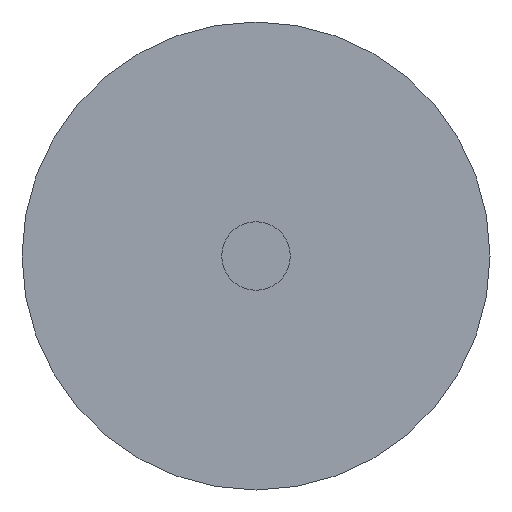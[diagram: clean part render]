
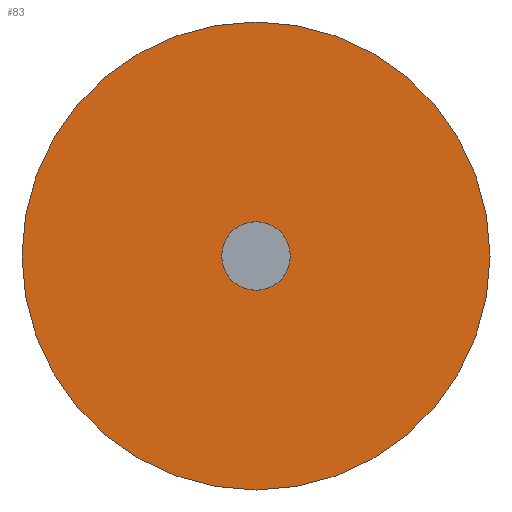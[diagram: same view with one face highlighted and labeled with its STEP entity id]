
A CAD part, front view. The second image highlights one B-rep face of the part: STEP entity #83.
In plain terms, the highlighted planar face has unit normal (0, -1, 0).
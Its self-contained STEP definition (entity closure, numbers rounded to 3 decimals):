
#83 = ADVANCED_FACE( '', ( #216, #217 ), #218, .F. );
#216 = FACE_BOUND( '', #470, .T. );
#217 = FACE_OUTER_BOUND( '', #471, .T. );
#218 = PLANE( '', #472 );
#470 = EDGE_LOOP( '', ( #862 ) );
#471 = EDGE_LOOP( '', ( #863 ) );
#472 = AXIS2_PLACEMENT_3D( '', #864, #865, #866 );
#862 = ORIENTED_EDGE( '', *, *, #1869, .F. );
#863 = ORIENTED_EDGE( '', *, *, #1870, .T. );
#864 = CARTESIAN_POINT( '', ( 20.5, 0., 0. ) );
#865 = DIRECTION( '', ( 0., 1., 0. ) );
#866 = DIRECTION( '', ( 0., 0., 1. ) );
#1869 = EDGE_CURVE( '', #2324, #2324, #2325, .T. );
#1870 = EDGE_CURVE( '', #2326, #2326, #2327, .T. );
#2324 = VERTEX_POINT( '', #3443 );
#2325 = CIRCLE( '', #3444, 3. );
#2326 = VERTEX_POINT( '', #3445 );
#2327 = CIRCLE( '', #3446, 20.5 );
#3443 = CARTESIAN_POINT( '', ( 0., 0., -3. ) );
#3444 = AXIS2_PLACEMENT_3D( '', #3993, #3994, #3995 );
#3445 = CARTESIAN_POINT( '', ( 0., 0., -20.5 ) );
#3446 = AXIS2_PLACEMENT_3D( '', #3996, #3997, #3998 );
#3993 = CARTESIAN_POINT( '', ( 0., 0., 0. ) );
#3994 = DIRECTION( '', ( 0., -1., 0. ) );
#3995 = DIRECTION( '', ( 0., 0., -1. ) );
#3996 = CARTESIAN_POINT( '', ( 0., 0., 0. ) );
#3997 = DIRECTION( '', ( 0., -1., 0. ) );
#3998 = DIRECTION( '', ( 0., 0., -1. ) );
